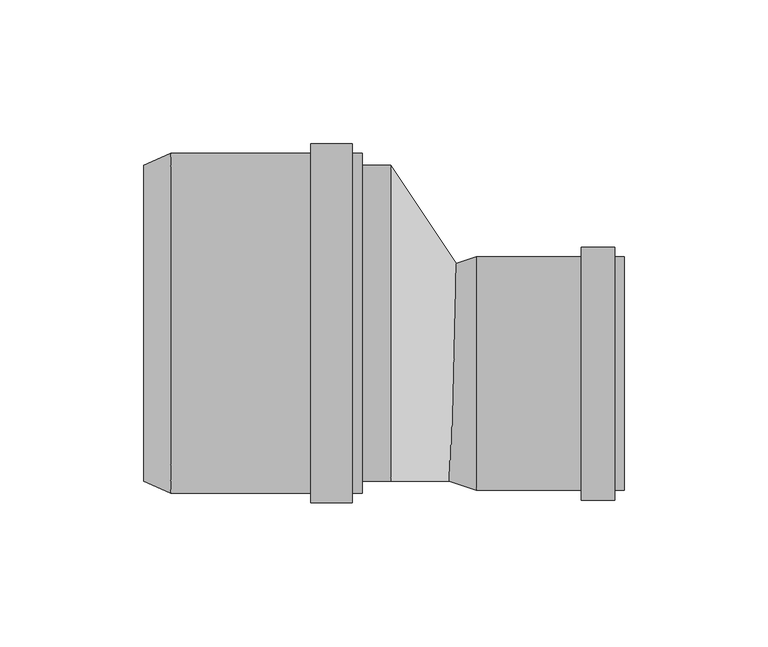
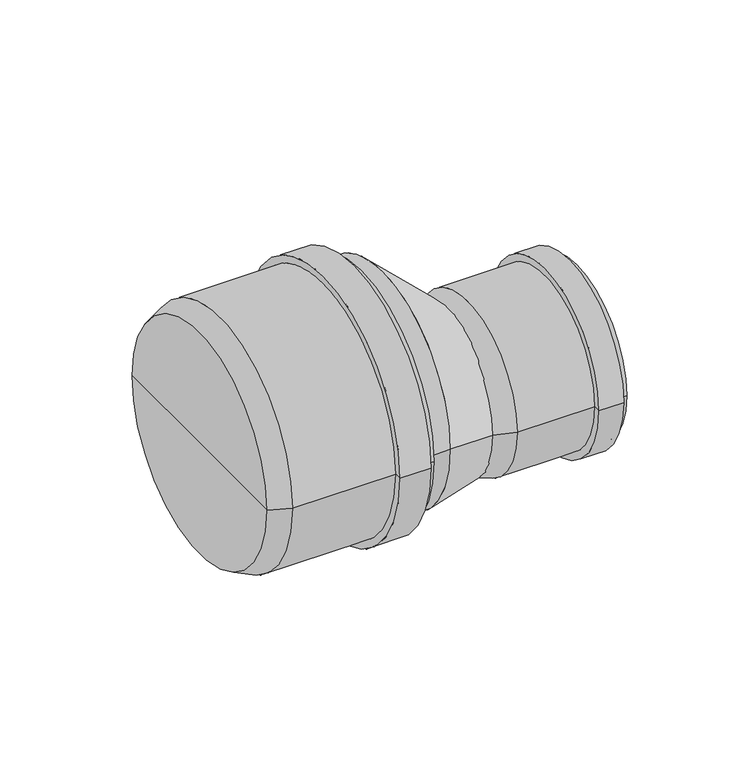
"""IFC4 building model written with IfcOpenShell, lengths in millimetres: pipe fitting geometry, pf_HTR_red-nes-dlouha : pf_HTR_red-nes-dlouha."""

from ifc_helpers import new_model, si_unit, point, frame, origin, origin_2d, place, context, project, spatial, polyline, circle_curve, trimmed, segment, composite_curve, outline, extrude, source, transform, mapped, element, save
from ifc_brep_helpers import plane_surface, cylinder_surface, revolved_surface, spline_surface, advanced_brep


def pipe_fitting_9c596fd1(model_context):
    return source(origin(), model_context, "Body", "SolidModel", [
        advanced_brep(
        [(-86.0, -55.0, 0.0), (-86.0, 55.0, 0.0), (-76.5, 59.1, 0.0), (-76.5, -59.1, 0.0), (-86.0, 0.0, 0.0), (-10.0, -59.1, 0.0), (-10.0, 59.1, 0.0), (-10.0, 0.0, 0.0), (-13.4, -59.1, 0.0), (-13.4, 59.1, 0.0), (-13.4, -62.5, 0.0), (-13.4, 62.5, 0.0), (-27.9, -62.5, 0.0), (-27.9, 62.5, 0.0), (-27.9, -59.1, 0.0), (-27.9, 59.1, 0.0)],
        [
            (0, 1, circle_curve(frame((-86.0, 0.0, 0.0), z_axis=(1.0, 0.0, 0.0), x_axis=(0.0, 1.0, 0.0)), 55.0)),
            (1, 2),
            (2, 3, circle_curve(frame((-76.5, 0.0, 0.0), z_axis=(-1.0, 0.0, 0.0), x_axis=(0.0, 1.0, 0.0)), 59.1)),
            (3, 0),
            (1, 0, circle_curve(frame((-86.0, 0.0, 0.0), z_axis=(1.0, 0.0, 0.0), x_axis=(0.0, 1.0, 0.0)), 55.0)),
            (3, 2, circle_curve(frame((-76.5, 0.0, 0.0), z_axis=(-1.0, 0.0, 0.0), x_axis=(0.0, 1.0, 0.0)), 59.1)),
            (4, 1),
            (0, 4),
            (5, 6, circle_curve(frame((-10.0, 0.0, 0.0), z_axis=(1.0, 0.0, 0.0), x_axis=(0.0, 1.0, 0.0)), 59.1)),
            (6, 7),
            (7, 5),
            (6, 5, circle_curve(frame((-10.0, 0.0, 0.0), z_axis=(1.0, 0.0, 0.0), x_axis=(0.0, 1.0, 0.0)), 59.1)),
            (8, 9, circle_curve(frame((-13.4, 0.0, 0.0), z_axis=(1.0, 0.0, 0.0), x_axis=(0.0, 1.0, 0.0)), 59.1)),
            (9, 6),
            (5, 8),
            (9, 8, circle_curve(frame((-13.4, 0.0, 0.0), z_axis=(1.0, 0.0, 0.0), x_axis=(0.0, 1.0, 0.0)), 59.1)),
            (10, 11, circle_curve(frame((-13.4, 0.0, 0.0), z_axis=(1.0, 0.0, 0.0), x_axis=(0.0, 1.0, 0.0)), 62.5)),
            (11, 9),
            (8, 10),
            (11, 10, circle_curve(frame((-13.4, 0.0, 0.0), z_axis=(1.0, 0.0, 0.0), x_axis=(0.0, 1.0, 0.0)), 62.5)),
            (12, 13, circle_curve(frame((-27.9, 0.0, 0.0), z_axis=(1.0, 0.0, 0.0), x_axis=(0.0, 1.0, 0.0)), 62.5)),
            (13, 11),
            (10, 12),
            (13, 12, circle_curve(frame((-27.9, 0.0, 0.0), z_axis=(1.0, 0.0, 0.0), x_axis=(0.0, 1.0, 0.0)), 62.5)),
            (14, 15, circle_curve(frame((-27.9, 0.0, 0.0), z_axis=(1.0, 0.0, 0.0), x_axis=(0.0, 1.0, 0.0)), 59.1)),
            (15, 13),
            (12, 14),
            (15, 14, circle_curve(frame((-27.9, 0.0, 0.0), z_axis=(1.0, 0.0, 0.0), x_axis=(0.0, 1.0, 0.0)), 59.1)),
            (2, 15),
            (14, 3),
        ],
        [
            revolved_surface(polyline([(-76.5, 59.1, 0.0), (-86.0, 55.0, 0.0)]), (-86.0, 0.0, 0.0), (-1.0, 0.0, 0.0)),
            plane_surface(frame((-86.0, 0.0, 0.0), z_axis=(-1.0, 0.0, 0.0), x_axis=(0.0, 1.0, 0.0))),
            plane_surface(frame((-10.0, 0.0, 0.0), z_axis=(1.0, 0.0, 0.0), x_axis=(0.0, 1.0, 0.0))),
            cylinder_surface(frame((-86.0, 0.0, 0.0), z_axis=(-1.0, 0.0, 0.0), x_axis=(0.0, 1.0, 0.0)), 59.1),
            plane_surface(frame((-13.4, 0.0, 0.0), z_axis=(1.0, 0.0, 0.0), x_axis=(0.0, 1.0, 0.0))),
            cylinder_surface(frame((-86.0, 0.0, 0.0), z_axis=(-1.0, 0.0, 0.0), x_axis=(0.0, 1.0, 0.0)), 62.5),
            plane_surface(frame((-27.9, 0.0, 0.0), z_axis=(-1.0, 0.0, 0.0), x_axis=(0.0, 1.0, 0.0))),
        ],
        [
            (0, [[1, 2, 3, 4]]),
            (0, [[5, -4, 6, -2]]),
            (1, [[7, -1, 8]]),
            (1, [[-8, -5, -7]]),
            (2, [[9, 10, 11]]),
            (2, [[12, -11, -10]]),
            (3, [[13, 14, -9, 15]]),
            (3, [[16, -15, -12, -14]]),
            (4, [[17, 18, -13, 19]]),
            (4, [[20, -19, -16, -18]]),
            (5, [[21, 22, -17, 23]]),
            (5, [[24, -23, -20, -22]]),
            (6, [[25, 26, -21, 27]]),
            (6, [[28, -27, -24, -26]]),
            (3, [[-3, 29, -25, 30]]),
            (3, [[-6, -30, -28, -29]]),
        ],
    ),
        advanced_brep(
        [(20.25, -55.0, 0.0), (20.25, 20.0, 0.0), (29.75, 23.1, 0.0), (29.75, -58.1, 0.0), (20.25, -17.5, 0.0), (81.25, -58.1, 0.0), (81.25, 23.1, 0.0), (81.25, -17.5, 0.0), (77.85, -58.1, 0.0), (77.85, 23.1, 0.0), (77.85, -61.5, 0.0), (77.85, 26.5, 0.0), (66.25, -61.5, 0.0), (66.25, 26.5, 0.0), (66.25, -58.1, 0.0), (66.25, 23.1, 0.0)],
        [
            (0, 1, circle_curve(frame((20.25, -17.5, 0.0), z_axis=(1.0, 0.0, 0.0), x_axis=(0.0, 1.0, 0.0)), 37.5)),
            (1, 2),
            (2, 3, circle_curve(frame((29.75, -17.5, 0.0), z_axis=(-1.0, 0.0, 0.0), x_axis=(0.0, 1.0, 0.0)), 40.6)),
            (3, 0),
            (1, 0, circle_curve(frame((20.25, -17.5, 0.0), z_axis=(1.0, 0.0, 0.0), x_axis=(0.0, 1.0, 0.0)), 37.5)),
            (3, 2, circle_curve(frame((29.75, -17.5, 0.0), z_axis=(-1.0, 0.0, 0.0), x_axis=(0.0, 1.0, 0.0)), 40.6)),
            (4, 1),
            (0, 4),
            (5, 6, circle_curve(frame((81.25, -17.5, 0.0), z_axis=(1.0, 0.0, 0.0), x_axis=(0.0, 1.0, 0.0)), 40.6)),
            (6, 7),
            (7, 5),
            (6, 5, circle_curve(frame((81.25, -17.5, 0.0), z_axis=(1.0, 0.0, 0.0), x_axis=(0.0, 1.0, 0.0)), 40.6)),
            (8, 9, circle_curve(frame((77.85, -17.5, 0.0), z_axis=(1.0, 0.0, 0.0), x_axis=(0.0, 1.0, 0.0)), 40.6)),
            (9, 6),
            (5, 8),
            (9, 8, circle_curve(frame((77.85, -17.5, 0.0), z_axis=(1.0, 0.0, 0.0), x_axis=(0.0, 1.0, 0.0)), 40.6)),
            (10, 11, circle_curve(frame((77.85, -17.5, 0.0), z_axis=(1.0, 0.0, 0.0), x_axis=(0.0, 1.0, 0.0)), 44.0)),
            (11, 9),
            (8, 10),
            (11, 10, circle_curve(frame((77.85, -17.5, 0.0), z_axis=(1.0, 0.0, 0.0), x_axis=(0.0, 1.0, 0.0)), 44.0)),
            (12, 13, circle_curve(frame((66.25, -17.5, 0.0), z_axis=(1.0, 0.0, 0.0), x_axis=(0.0, 1.0, 0.0)), 44.0)),
            (13, 11),
            (10, 12),
            (13, 12, circle_curve(frame((66.25, -17.5, 0.0), z_axis=(1.0, 0.0, 0.0), x_axis=(0.0, 1.0, 0.0)), 44.0)),
            (14, 15, circle_curve(frame((66.25, -17.5, 0.0), z_axis=(1.0, 0.0, 0.0), x_axis=(0.0, 1.0, 0.0)), 40.6)),
            (15, 13),
            (12, 14),
            (15, 14, circle_curve(frame((66.25, -17.5, 0.0), z_axis=(1.0, 0.0, 0.0), x_axis=(0.0, 1.0, 0.0)), 40.6)),
            (2, 15),
            (14, 3),
        ],
        [
            revolved_surface(polyline([(29.75, 23.1, 0.0), (20.25, 20.0, 0.0)]), (20.25, -17.5, 0.0), (-1.0, 0.0, 0.0)),
            plane_surface(frame((20.25, -17.5, 0.0), z_axis=(-1.0, 0.0, 0.0), x_axis=(0.0, 1.0, 0.0))),
            plane_surface(frame((81.25, -17.5, 0.0), z_axis=(1.0, 0.0, 0.0), x_axis=(0.0, 1.0, 0.0))),
            cylinder_surface(frame((20.25, -17.5, 0.0), z_axis=(-1.0, 0.0, 0.0), x_axis=(0.0, 1.0, 0.0)), 40.6),
            plane_surface(frame((77.85, -17.5, 0.0), z_axis=(1.0, 0.0, 0.0), x_axis=(0.0, 1.0, 0.0))),
            cylinder_surface(frame((20.25, -17.5, 0.0), z_axis=(-1.0, 0.0, 0.0), x_axis=(0.0, 1.0, 0.0)), 44.0),
            plane_surface(frame((66.25, -17.5, 0.0), z_axis=(-1.0, 0.0, 0.0), x_axis=(0.0, 1.0, 0.0))),
        ],
        [
            (0, [[1, 2, 3, 4]]),
            (0, [[5, -4, 6, -2]]),
            (1, [[7, -1, 8]]),
            (1, [[-8, -5, -7]]),
            (2, [[9, 10, 11]]),
            (2, [[12, -11, -10]]),
            (3, [[13, 14, -9, 15]]),
            (3, [[16, -15, -12, -14]]),
            (4, [[17, 18, -13, 19]]),
            (4, [[20, -19, -16, -18]]),
            (5, [[21, 22, -17, 23]]),
            (5, [[24, -23, -20, -22]]),
            (6, [[25, 26, -21, 27]]),
            (6, [[28, -27, -24, -26]]),
            (3, [[-3, 29, -25, 30]]),
            (3, [[-6, -30, -28, -29]]),
        ],
    ),
        extrude(outline(composite_curve([segment(trimmed(circle_curve(origin_2d(), 55.0), [point((-55.0, 0.0))], [point((55.0, 0.0))], False, "CARTESIAN"), True, "CONTINUOUS"), segment(trimmed(circle_curve(origin_2d(), 55.0), [point((55.0, 0.0))], [point((-55.0, 0.0))], False, "CARTESIAN"), True, "CONTINUOUS")], self_intersect=False)), frame((-10.0, 0.0, 0.0), z_axis=(1.0, 0.0, 0.0), x_axis=(0.0, 1.0, 0.0)), (0.0, 0.0, 1.0), 10.0),
        advanced_brep(
        [(23.25, -55.0, 0.0), (23.25, 20.0, 0.0), (0.0, -55.0, 0.0), (0.0, 55.0, 0.0)],
        [
            (0, 1, circle_curve(frame((23.25, -17.5, 0.0), z_axis=(1.0, 0.0, 0.0), x_axis=(0.0, 1.0, 0.0)), 37.5)),
            (1, 0, circle_curve(frame((23.25, -17.5, 0.0), z_axis=(1.0, 0.0, 0.0), x_axis=(0.0, 1.0, 0.0)), 37.5)),
            (2, 3, circle_curve(frame((0.0, 0.0, 0.0), z_axis=(-1.0, 0.0, 0.0), x_axis=(0.0, 1.0, 0.0)), 55.0)),
            (3, 2, circle_curve(frame((0.0, 0.0, 0.0), z_axis=(-1.0, 0.0, 0.0), x_axis=(0.0, 1.0, 0.0)), 55.0)),
            (3, 1),
            (0, 2),
        ],
        [
            plane_surface(frame((23.25, -17.5, 0.0), z_axis=(1.0, 0.0, 0.0), x_axis=(0.0, 0.0, -1.0))),
            plane_surface(frame((0.0, 0.0, 0.0), z_axis=(-1.0, 0.0, 0.0), x_axis=(0.0, 0.0, -1.0))),
            spline_surface(2, 1, [[(0.0, -55.0, 0.0), (23.25, -55.0, 0.0)], [(0.0, -55.0, -55.0), (23.25, -55.0, -37.5)], [(0.0, 0.0, -55.0), (23.25, -17.5, -37.5)], [(0.0, 55.0, -55.0), (23.25, 20.0, -37.5)], [(0.0, 55.0, 0.0), (23.25, 20.0, 0.0)]], [3, 2, 3], [2, 2], [0.0, 1.0, 2.0], [0.0, 1.0], weights=[[1.0, 1.0], [0.7071067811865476, 0.7071067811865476], [1.0, 1.0], [0.7071067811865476, 0.7071067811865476], [1.0, 1.0]]),
            spline_surface(2, 1, [[(0.0, 55.0, 0.0), (23.25, 20.0, 0.0)], [(0.0, 55.0, 55.0), (23.25, 20.0, 37.5)], [(0.0, 0.0, 55.0), (23.25, -17.5, 37.5)], [(0.0, -55.0, 55.0), (23.25, -55.0, 37.5)], [(0.0, -55.0, 0.0), (23.25, -55.0, 0.0)]], [3, 2, 3], [2, 2], [0.0, 1.0, 2.0], [0.0, 1.0], weights=[[1.0, 1.0], [0.7071067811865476, 0.7071067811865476], [1.0, 1.0], [0.7071067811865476, 0.7071067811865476], [1.0, 1.0]]),
        ],
        [
            (0, [[1, 2]]),
            (1, [[3, 4]]),
            (2, [[-4, 5, -1, 6]]),
            (3, [[-3, -6, -2, -5]]),
        ],
    ),
    ])


if __name__ == "__main__":
    model = new_model("IFC4")
    model_context = context("Model", 3, world=origin())
    ifc_project = project(units=[si_unit("LENGTHUNIT", "METRE", prefix="MILLI")], contexts=[model_context])
    site = spatial("IfcSite", under=ifc_project)
    building = spatial("IfcBuilding", under=site)
    placement = place(None, origin())
    pipe_fitting_shape = pipe_fitting_9c596fd1(model_context)
    element("IfcPipeFitting", 1, ObjectType="pf_HTR_red-nes-dlouha : pf_HTR_red-nes-dlouha", at=placement, inside=building, context=model_context, shape_type="MappedRepresentation", body=[
        mapped(pipe_fitting_shape, transform((0.0, 0.0, 0.0), x_axis=(1.0, 0.0, 0.0), y_axis=(0.0, 1.0, 0.0), z_axis=(0.0, 0.0, 1.0))),
    ])
    save(model, "model.ifc")
